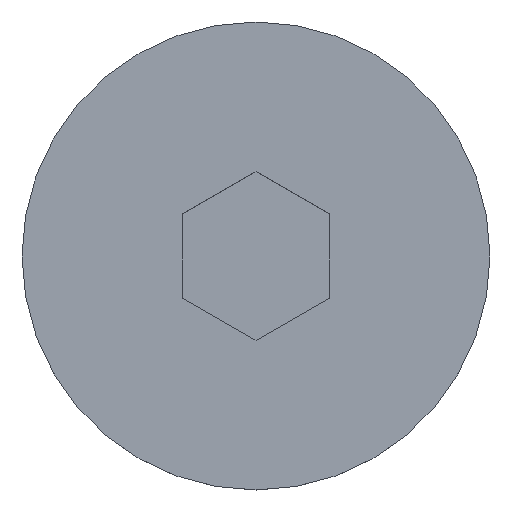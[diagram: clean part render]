
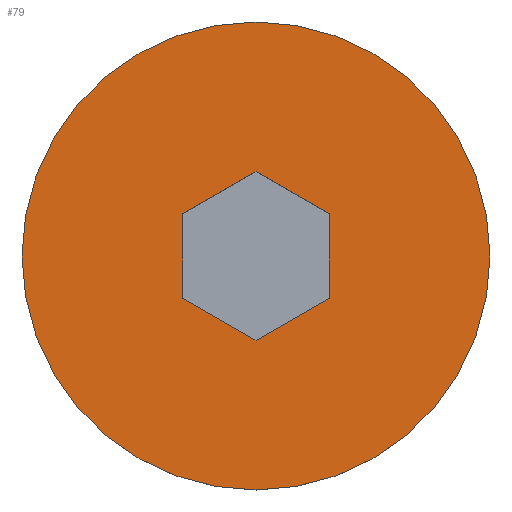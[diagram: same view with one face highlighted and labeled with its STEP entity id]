
A CAD part, top view. The second image highlights one B-rep face of the part: STEP entity #79.
In plain terms, the highlighted planar face has unit normal (0, 0, 1).
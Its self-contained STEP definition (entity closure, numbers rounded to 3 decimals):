
#5 = CIRCLE ( 'NONE', #82, 9.61 ) ;
#8 = VERTEX_POINT ( 'NONE', #177 ) ;
#22 = CARTESIAN_POINT ( 'NONE',  ( -3., 1.732, 5.22 ) ) ;
#27 = CARTESIAN_POINT ( 'NONE',  ( -9.61, 0., 5.22 ) ) ;
#30 = FACE_OUTER_BOUND ( 'NONE', #367, .T. ) ;
#46 = DIRECTION ( 'NONE',  ( 0., 0., 1. ) ) ;
#47 = FACE_BOUND ( 'NONE', #215, .T. ) ;
#56 = LINE ( 'NONE', #65, #180 ) ;
#65 = CARTESIAN_POINT ( 'NONE',  ( 0., 3.464, 5.22 ) ) ;
#79 = ADVANCED_FACE ( 'NONE', ( #47, #30 ), #223, .T. ) ;
#81 = ORIENTED_EDGE ( 'NONE', *, *, #387, .F. ) ;
#82 = AXIS2_PLACEMENT_3D ( 'NONE', #301, #304, #191 ) ;
#87 = ORIENTED_EDGE ( 'NONE', *, *, #369, .F. ) ;
#106 = AXIS2_PLACEMENT_3D ( 'NONE', #391, #447, #123 ) ;
#119 = CARTESIAN_POINT ( 'NONE',  ( 3., 1.732, 5.22 ) ) ;
#123 = DIRECTION ( 'NONE',  ( -1., 0., 0. ) ) ;
#125 = CARTESIAN_POINT ( 'NONE',  ( -3., -1.732, 5.22 ) ) ;
#128 = VECTOR ( 'NONE', #364, 1000. ) ;
#134 = VECTOR ( 'NONE', #448, 1000. ) ;
#136 = ORIENTED_EDGE ( 'NONE', *, *, #403, .F. ) ;
#142 = VECTOR ( 'NONE', #282, 1000. ) ;
#152 = EDGE_CURVE ( 'NONE', #397, #375, #249, .T. ) ;
#154 = CARTESIAN_POINT ( 'NONE',  ( -3., 1.732, 5.22 ) ) ;
#159 = VECTOR ( 'NONE', #357, 1000. ) ;
#177 = CARTESIAN_POINT ( 'NONE',  ( 3., -1.732, 5.22 ) ) ;
#180 = VECTOR ( 'NONE', #325, 1000. ) ;
#185 = VERTEX_POINT ( 'NONE', #239 ) ;
#191 = DIRECTION ( 'NONE',  ( -1., 0., 0. ) ) ;
#198 = LINE ( 'NONE', #418, #128 ) ;
#202 = CARTESIAN_POINT ( 'NONE',  ( 3., -1.732, 5.22 ) ) ;
#205 = LINE ( 'NONE', #22, #159 ) ;
#213 = ORIENTED_EDGE ( 'NONE', *, *, #361, .F. ) ;
#215 = EDGE_LOOP ( 'NONE', ( #81, #267, #427, #213, #136, #87 ) ) ;
#220 = EDGE_CURVE ( 'NONE', #286, #8, #198, .T. ) ;
#223 = PLANE ( 'NONE',  #272 ) ;
#225 = ORIENTED_EDGE ( 'NONE', *, *, #152, .F. ) ;
#229 = EDGE_CURVE ( 'NONE', #375, #397, #5, .T. ) ;
#233 = CARTESIAN_POINT ( 'NONE',  ( 9.61, 0., 5.22 ) ) ;
#239 = CARTESIAN_POINT ( 'NONE',  ( -3., -1.732, 5.22 ) ) ;
#242 = CARTESIAN_POINT ( 'NONE',  ( 0., 3.464, 5.22 ) ) ;
#246 = LINE ( 'NONE', #125, #134 ) ;
#249 = CIRCLE ( 'NONE', #106, 9.61 ) ;
#267 = ORIENTED_EDGE ( 'NONE', *, *, #338, .F. ) ;
#272 = AXIS2_PLACEMENT_3D ( 'NONE', #302, #46, #439 ) ;
#282 = DIRECTION ( 'NONE',  ( -0.866, 0.5, 0. ) ) ;
#286 = VERTEX_POINT ( 'NONE', #287 ) ;
#287 = CARTESIAN_POINT ( 'NONE',  ( 0., -3.464, 5.22 ) ) ;
#295 = ORIENTED_EDGE ( 'NONE', *, *, #229, .F. ) ;
#301 = CARTESIAN_POINT ( 'NONE',  ( 0., 0., 5.22 ) ) ;
#302 = CARTESIAN_POINT ( 'NONE',  ( -9.61, 0., 5.22 ) ) ;
#304 = DIRECTION ( 'NONE',  ( 0., 0., -1. ) ) ;
#322 = CARTESIAN_POINT ( 'NONE',  ( 3., 1.732, 5.22 ) ) ;
#325 = DIRECTION ( 'NONE',  ( -0.866, -0.5, 0. ) ) ;
#329 = VECTOR ( 'NONE', #443, 1000. ) ;
#335 = VERTEX_POINT ( 'NONE', #242 ) ;
#337 = LINE ( 'NONE', #322, #142 ) ;
#338 = EDGE_CURVE ( 'NONE', #8, #354, #348, .T. ) ;
#348 = LINE ( 'NONE', #202, #329 ) ;
#354 = VERTEX_POINT ( 'NONE', #119 ) ;
#357 = DIRECTION ( 'NONE',  ( 0., -1., 0. ) ) ;
#361 = EDGE_CURVE ( 'NONE', #185, #286, #246, .T. ) ;
#364 = DIRECTION ( 'NONE',  ( 0.866, 0.5, 0. ) ) ;
#367 = EDGE_LOOP ( 'NONE', ( #295, #225 ) ) ;
#369 = EDGE_CURVE ( 'NONE', #335, #393, #56, .T. ) ;
#375 = VERTEX_POINT ( 'NONE', #27 ) ;
#387 = EDGE_CURVE ( 'NONE', #354, #335, #337, .T. ) ;
#391 = CARTESIAN_POINT ( 'NONE',  ( 0., 0., 5.22 ) ) ;
#393 = VERTEX_POINT ( 'NONE', #154 ) ;
#397 = VERTEX_POINT ( 'NONE', #233 ) ;
#403 = EDGE_CURVE ( 'NONE', #393, #185, #205, .T. ) ;
#418 = CARTESIAN_POINT ( 'NONE',  ( 0., -3.464, 5.22 ) ) ;
#427 = ORIENTED_EDGE ( 'NONE', *, *, #220, .F. ) ;
#439 = DIRECTION ( 'NONE',  ( 1., 0., 0. ) ) ;
#443 = DIRECTION ( 'NONE',  ( 0., 1., 0. ) ) ;
#447 = DIRECTION ( 'NONE',  ( 0., 0., -1. ) ) ;
#448 = DIRECTION ( 'NONE',  ( 0.866, -0.5, 0. ) ) ;
